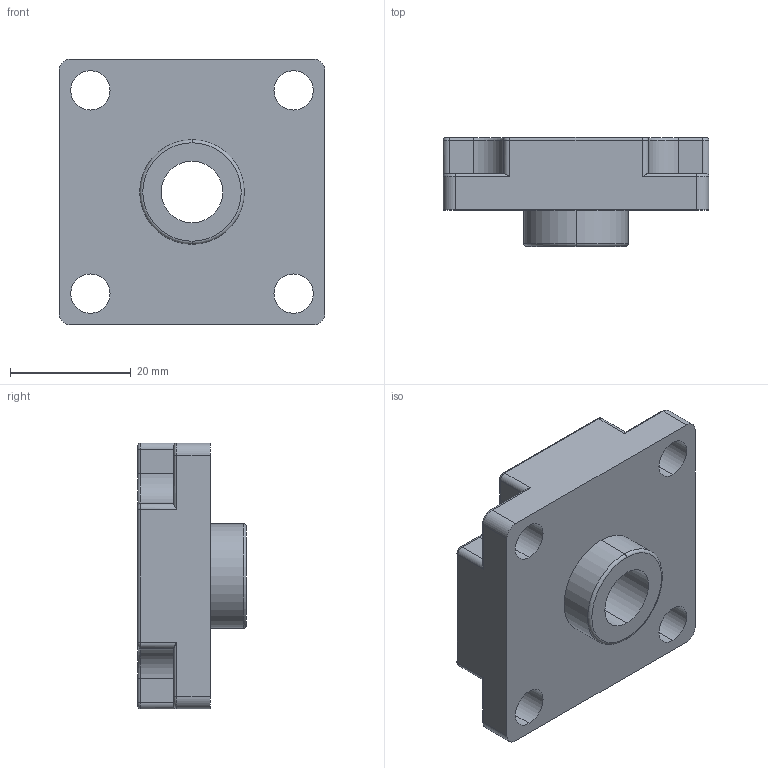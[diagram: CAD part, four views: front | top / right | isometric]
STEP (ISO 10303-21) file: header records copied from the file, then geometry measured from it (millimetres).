
FILE_DESCRIPTION (( 'STEP AP214' ), '1' );
FILE_NAME ('FBFE 44M12.step', '2017-04-05T08:02:41', ( '' ), ( '' ), 'SwSTEP 2.0', 'SolidWorks 2015', '' );
FILE_SCHEMA (( 'AUTOMOTIVE_DESIGN' ));
Length unit declared in the file: millimetre
Products named in the file (1): FBFE 44M12
Bounding box: 44 x 18 x 44 mm (x, y, z)
Volume: 20034.6 mm3; surface area: 6767.1 mm2
Topology: 1 solids, 1 shells, 88 faces, 218 edges, 134 vertices
Faces by surface type: cylinder 48, plane 20, torus 18, cone 2
Entity records: 2746 total; most frequent: CARTESIAN_POINT 505, DIRECTION 500, ORIENTED_EDGE 436, EDGE_CURVE 218, AXIS2_PLACEMENT_3D 201, VERTEX_POINT 134, CIRCLE 112, EDGE_LOOP 100
